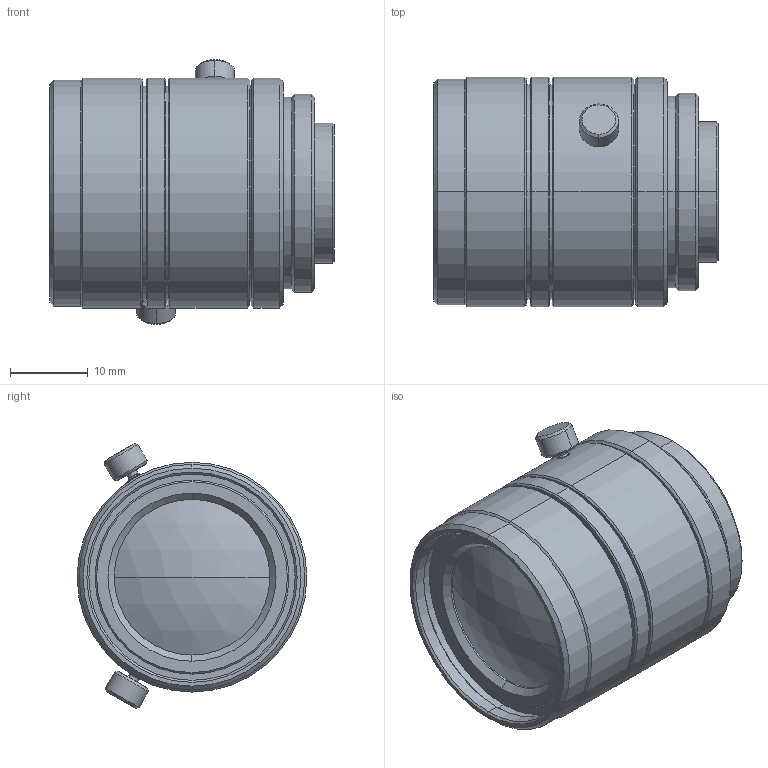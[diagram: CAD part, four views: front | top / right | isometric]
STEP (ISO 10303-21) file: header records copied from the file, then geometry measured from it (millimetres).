
FILE_DESCRIPTION (( 'STEP AP203' ), '1' );
FILE_NAME ('SV-0614V.STEP', '2014-10-30T09:57:04', ( '' ), ( '' ), 'SwSTEP 2.0', 'SolidWorks 2014', '' );
FILE_SCHEMA (( 'CONFIG_CONTROL_DESIGN' ));
Length unit declared in the file: millimetre
Products named in the file (1): SV-0614V
Bounding box: 36.52 x 29.5 x 34 mm (x, y, z)
Volume: 20406.3 mm3; surface area: 6272.8 mm2
Topology: 1 solids, 1 shells, 116 faces, 234 edges, 138 vertices
Faces by surface type: cone 50, cylinder 44, plane 18, sphere 4
Entity records: 3149 total; most frequent: DIRECTION 600, CARTESIAN_POINT 547, ORIENTED_EDGE 468, AXIS2_PLACEMENT_3D 253, EDGE_CURVE 234, VERTEX_POINT 138, CIRCLE 136, EDGE_LOOP 134
